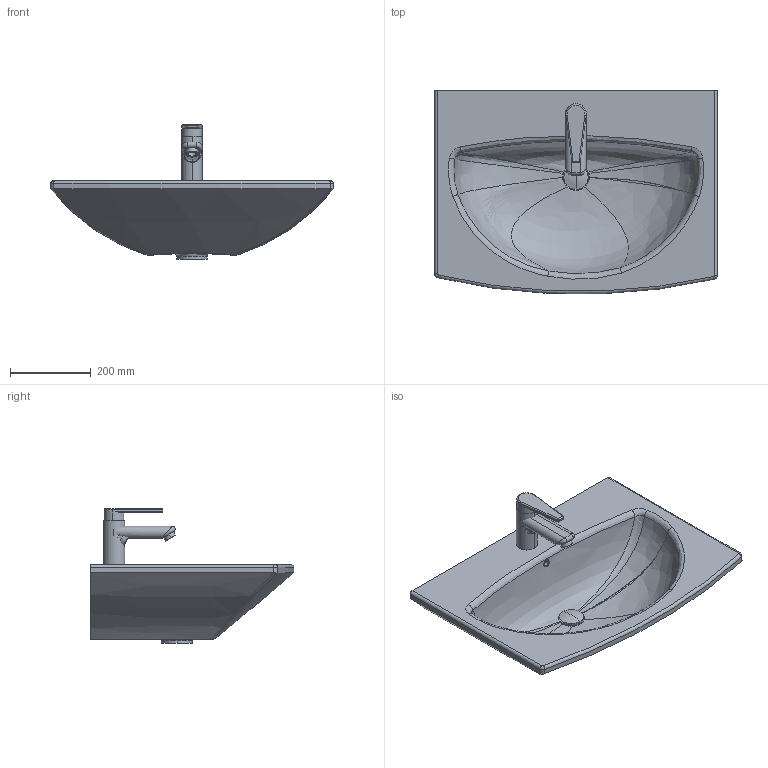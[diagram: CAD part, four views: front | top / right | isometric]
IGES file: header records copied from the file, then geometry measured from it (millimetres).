
Global section: file name: No Iges File Name specified; native system: AutoDesk Inventor R11.0; preprocessor: AutoDesk Inventor Iges Exporter R11.0; author: No Author specified; organization: No Organization specified; date: 20080114.175716; units: millimetre
Bounding box: 700 x 503.8 x 334 mm (x, y, z)
Volume: 21156583.4 mm3; surface area: 1170281.8 mm2
Topology: 8 solids, 8 shells, 179 faces, 439 edges, 275 vertices
Faces by surface type: plane 49, bspline 43, cylinder 41, revolution 26, torus 12, sphere 5, cone 3
